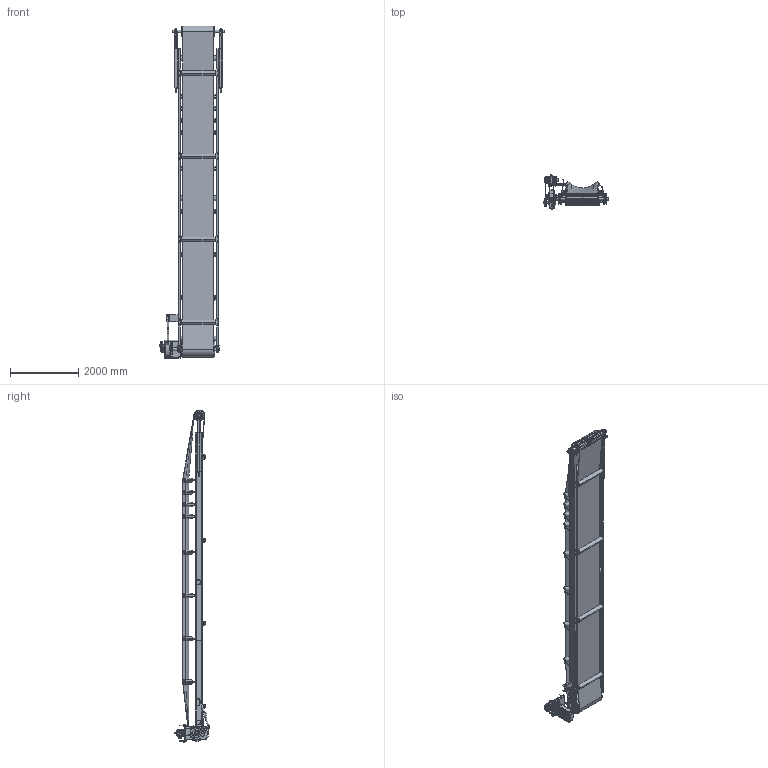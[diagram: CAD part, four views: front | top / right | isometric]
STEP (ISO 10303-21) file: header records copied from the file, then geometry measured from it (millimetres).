
FILE_DESCRIPTION(('30ft Belt Conveyor, 36" wide belt'),'2;1');
FILE_NAME('F:\backup\Projects\Inventor\Conveyor\30ft x 36in Conveyor.stp','2011-10-10T18:14:48',('Wesley Trail'),(''),'Autodesk Inventor 2011','Autodesk Inventor 2011','');
FILE_SCHEMA(('AUTOMOTIVE_DESIGN { 1 0 10303 214 1 1 1 1 }'));
Length unit declared in the file: inch
Products named in the file (48): conveyor assy; conveyor frame; AISC - C 8 x 11.5 - 38; AISC - C 8 x 11.5 - 102.5; ANSI - 6 x 0.280 - 30; AISC - 4x4x3_8 - 45; slack adjust mount plate; slack adjust tube end; solid mount end plate; ANSI_AISC  (C) - C 8x13.75-13.5; Assembly1; Part12; Part14; Part16; 35d-36in; 35d-36in frame; 35d-36in roller; takeup rod; AISC - 3x3x1_4 - 48; adjust mount end plate; slack adjust rod end; 126821; 126821H; 123364; 405015E_Inch; dovetail tail roller; head roller; 126823; 126823H; 123366; tail end shaft; head shaft; adaptive belt; TXT_625_T_3_7_16S_29_19_143T_326T_14_56; 2461513_7_16T_S; 246268_25; 246391_25143T_326T14_56T; 76LYJ036_16_46; 76LYJ036_frame_16_46; 76LYJ036_CB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
Assembly tree (74 placements, depth 3):
  conveyor assy
    conveyor frame
      AISC - C 8 x 11.5 - 38  x2
      AISC - C 8 x 11.5 - 102.5  x2
      ANSI - 6 x 0.280 - 30  x3
      AISC - 4x4x3_8 - 45  x2
      slack adjust mount plate  x4
      slack adjust tube end  x2
      solid mount end plate  x2
      ANSI_AISC  (C) - C 8x13.75-13.5
    Assembly1  x4
      Part12
      Part14
      Part16
    35d-36in  x8
      35d-36in frame
      35d-36in roller
    takeup rod  x2
      AISC - 3x3x1_4 - 48
      adjust mount end plate
      slack adjust rod end
    126821  x2
      126821H
      123364
      405015E_Inch
    dovetail tail roller
    head roller
    126823  x2
      126823H
      123366
      405015E_Inch
    tail end shaft
    head shaft
    adaptive belt
    TXT_625_T_3_7_16S_29_19_143T_326T_14_56
      2461513_7_16T_S
      246268_25  x2
      246391_25143T_326T14_56T
    76LYJ036_16_46
      76LYJ036_frame_16_46
      76LYJ036_CB
    TXT_6_TF
    TXT_625_T29_19R
    v-belt taper lock(concept)  x2
    V-Belt transmission
      V-Belt
      Grooved Pulley1
      Grooved Pulley2
Bounding box: 1906.57 x 1019.83 x 9751.3 mm (x, y, z)
Volume: 487718237.2 mm3; surface area: 75313063.1 mm2
Topology: 194 solids, 194 shells, 4566 faces, 11646 edges, 7615 vertices
Faces by surface type: plane 3012, cylinder 1223, cone 229, bspline 84, torus 10, sphere 8
Full cylindrical faces by diameter (mm): 3.81 x2, 5.334 x4, 6.35 x4, 8.382 x8, 10.414 x6, 10.584 x4, 12.192 x1, 12.7 x8, 15.875 x1, 16.002 x12, 18.288 x8, 19.05 x45, 20.32 x1, 22.225 x4, 25.4 x5, 27.686 x1, 28.575 x1, 31.75 x1, 40.64 x1, 42.863 x2, 55.563 x1, 69.85 x1, 74.612 x1, 74.613 x4, 87.312 x1, 87.313 x4, 87.923 x2, 97.234 x4, 110.728 x4, 115.291 x1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
Entity records: 63692 total; most frequent: CARTESIAN_POINT 12409, DIRECTION 10442, ORIENTED_EDGE 10046, EDGE_CURVE 5023, AXIS2_PLACEMENT_3D 3485, VECTOR 3472, LINE 3472, VERTEX_POINT 3367
